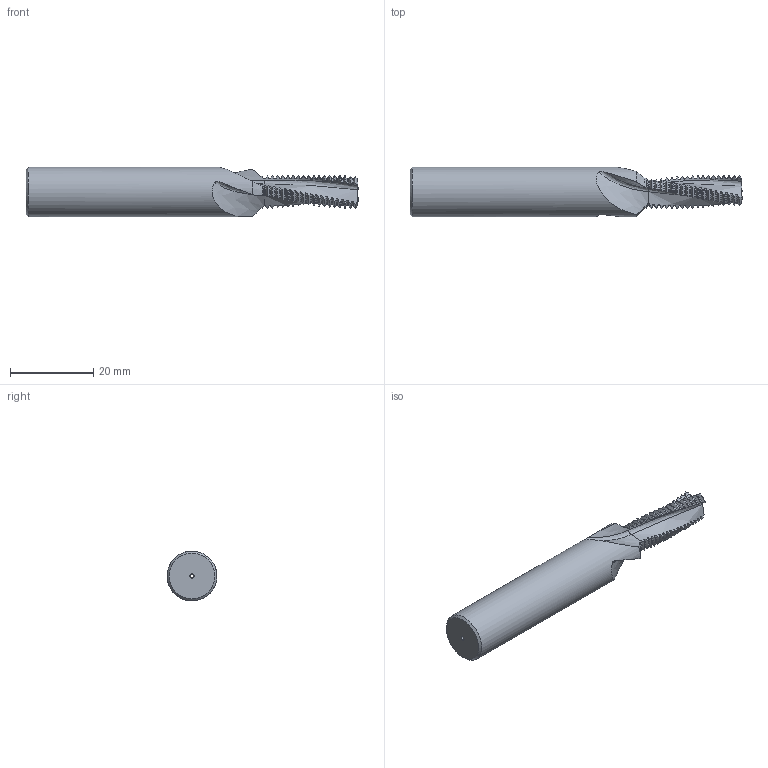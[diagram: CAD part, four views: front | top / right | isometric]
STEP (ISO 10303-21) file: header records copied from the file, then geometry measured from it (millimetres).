
FILE_DESCRIPTION(/* description */ (''),/* implementation_level */ '2;1');
FILE_NAME(/* name */ '00036506-STEP',/* time_stamp */ '2024-02-14T08:34:59+01:00',/* author */ (''),/* organization */ (''),/* preprocessor_version */ 'ST-DEVELOPER v16.5',/* originating_system */ 'HiCAD 2017 2201.0 Build 268',/* authorisation */ '');
FILE_SCHEMA (('AUTOMOTIVE_DESIGN { 1 0 10303 214 1 1 1 1 }'));
Products named in the file (2): Root; ROTATIONSTEIL_1
Assembly tree (1 placements, depth 2):
  Root
    ROTATIONSTEIL_1
Bounding box: 80 x 12 x 12 mm (x, y, z)
Volume: 6366.1 mm3; surface area: 3184.9 mm2
Topology: 1 solids, 1 shells, 362 faces, 1190 edges, 830 vertices
Faces by surface type: cylinder 116, cone 115, torus 111, bspline 18, plane 2
Full cylindrical faces by diameter (mm): 1 x1, 12 x1
Entity records: 38976 total; most frequent: CARTESIAN_POINT 18411, PRESENTATION_STYLE_ASSIGNMENT 2369, COLOUR_RGB 2369, DRAUGHTING_PRE_DEFINED_CURVE_FONT 2368, CURVE_STYLE 2368, OVER_RIDING_STYLED_ITEM 2368, ORIENTED_EDGE 2368, DIRECTION 1608
